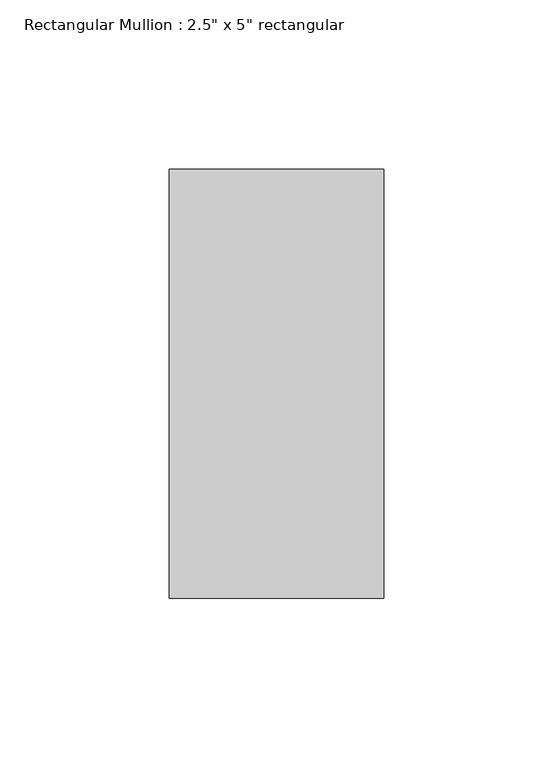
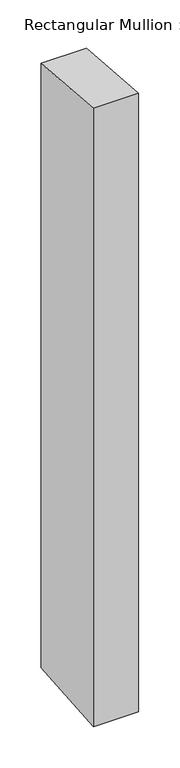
"""IFC4 building model written with IfcOpenShell, lengths in millimetres: member geometry."""

from ifc_helpers import new_model, si_unit, frame, origin, place, context, project, spatial, polyline, outline, extrude, source, transform, mapped, element, save


def member_8291d7f9(model_context):
    return source(origin(), model_context, "Body", "SweptSolid", [
        extrude(outline(polyline([(-63.5, 5.050167), (63.5, -5.050167), (63.5, -900.0384732), (-63.5, -910.1388071), (-63.5, 5.050167)])), frame((-63.5, 0.0, 0.0), z_axis=(1.0, 0.0, 0.0), x_axis=(0.0, 1.0, 0.0)), (0.0, 0.0, 1.0), 63.5),
    ])


if __name__ == "__main__":
    model = new_model("IFC4")
    model_context = context("Model", 3, world=origin())
    ifc_project = project(units=[si_unit("LENGTHUNIT", "METRE", prefix="MILLI")], contexts=[model_context])
    site = spatial("IfcSite", under=ifc_project)
    building = spatial("IfcBuilding", under=site)
    placement = place(None, origin())
    member_shape = member_8291d7f9(model_context)
    element("IfcMember", 1, ObjectType="Rectangular Mullion : 2.5\" x 5\" rectangular", at=placement, inside=building, context=model_context, shape_type="MappedRepresentation", body=[
        mapped(member_shape, transform((0.0, 0.0, 0.0), x_axis=(1.0, 0.0, 0.0), y_axis=(0.0, 1.0, 0.0), z_axis=(0.0, 0.0, 1.0))),
    ])
    save(model, "model.ifc")
